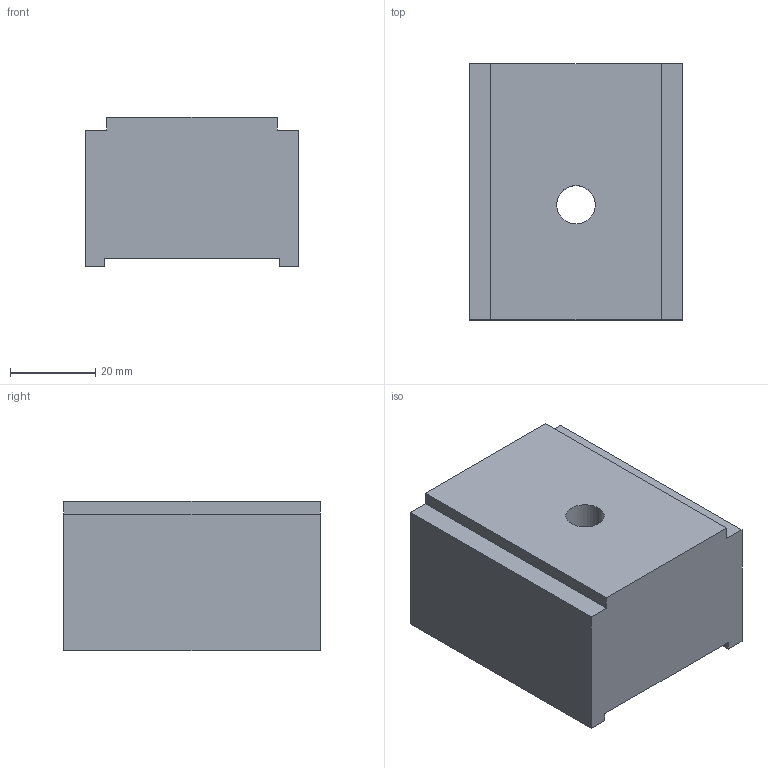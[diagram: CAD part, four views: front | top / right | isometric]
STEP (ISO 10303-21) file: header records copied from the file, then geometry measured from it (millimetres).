
FILE_DESCRIPTION (( 'STEP AP214' ), '1' );
FILE_NAME ('R2SLA 33.STEP', '2022-10-20T06:07:58', ( '' ), ( '' ), 'SwSTEP 2.0', 'SolidWorks 2021', '' );
FILE_SCHEMA (( 'AUTOMOTIVE_DESIGN' ));
Length unit declared in the file: millimetre
Products named in the file (1): R2SLA 33
Bounding box: 50 x 60 x 35 mm (x, y, z)
Volume: 96180.6 mm3; surface area: 14521.8 mm2
Topology: 1 solids, 1 shells, 16 faces, 42 edges, 28 vertices
Faces by surface type: plane 14, cylinder 2
Entity records: 528 total; most frequent: CARTESIAN_POINT 87, ORIENTED_EDGE 84, DIRECTION 80, EDGE_CURVE 42, VECTOR 38, LINE 38, VERTEX_POINT 28, AXIS2_PLACEMENT_3D 21
